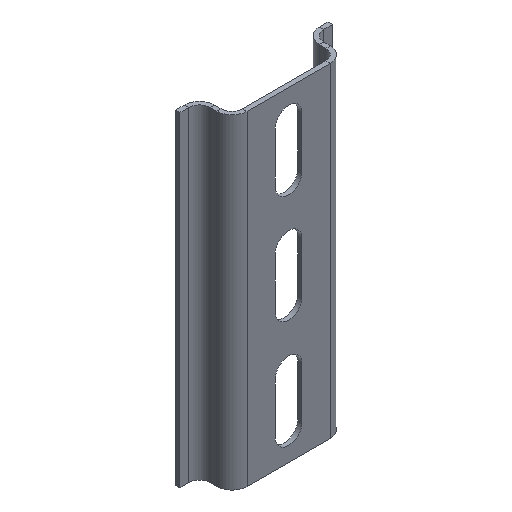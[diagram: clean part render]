
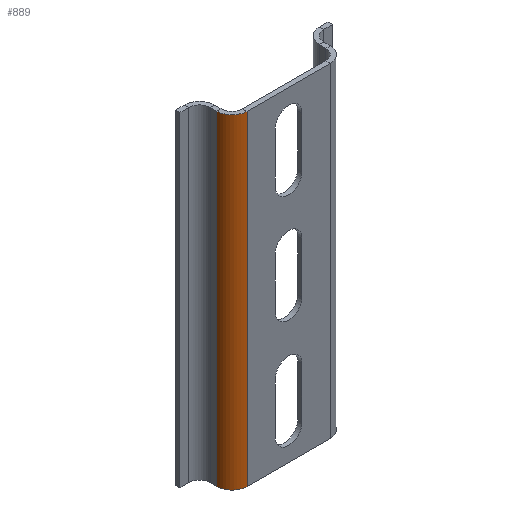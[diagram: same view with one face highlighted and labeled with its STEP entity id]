
A CAD part, isometric view. The second image highlights one B-rep face of the part: STEP entity #889.
In plain terms, the highlighted cylindrical face has radius 3.5 mm (diameter 7 mm), a partial arc.
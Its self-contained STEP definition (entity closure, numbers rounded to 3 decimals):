
#1 = ORIENTED_EDGE ( 'NONE', *, *, #903, .T. ) ;
#27 = CIRCLE ( 'NONE', #381, 3.5 ) ;
#50 = CARTESIAN_POINT ( 'NONE',  ( -9.6, -1., 0. ) ) ;
#68 = AXIS2_PLACEMENT_3D ( 'NONE', #1451, #773, #176 ) ;
#116 = LINE ( 'NONE', #662, #1263 ) ;
#152 = ORIENTED_EDGE ( 'NONE', *, *, #1134, .F. ) ;
#171 = EDGE_LOOP ( 'NONE', ( #152, #1127, #1393, #1 ) ) ;
#176 = DIRECTION ( 'NONE',  ( 1., 0., 0. ) ) ;
#252 = CARTESIAN_POINT ( 'NONE',  ( -13.1, 2.5, 75. ) ) ;
#316 = FACE_OUTER_BOUND ( 'NONE', #171, .T. ) ;
#323 = CARTESIAN_POINT ( 'NONE',  ( -9.6, -1., 75. ) ) ;
#337 = LINE ( 'NONE', #252, #1264 ) ;
#366 = DIRECTION ( 'NONE',  ( 0., 0., -1. ) ) ;
#381 = AXIS2_PLACEMENT_3D ( 'NONE', #614, #849, #483 ) ;
#464 = AXIS2_PLACEMENT_3D ( 'NONE', #1413, #366, #741 ) ;
#483 = DIRECTION ( 'NONE',  ( 1., 0., 0. ) ) ;
#496 = DIRECTION ( 'NONE',  ( 0., 0., -1. ) ) ;
#614 = CARTESIAN_POINT ( 'NONE',  ( -9.6, 2.5, 75. ) ) ;
#625 = VERTEX_POINT ( 'NONE', #1106 ) ;
#656 = CYLINDRICAL_SURFACE ( 'NONE', #464, 3.5 ) ;
#662 = CARTESIAN_POINT ( 'NONE',  ( -9.6, -1., 75. ) ) ;
#741 = DIRECTION ( 'NONE',  ( -1., 0., 0. ) ) ;
#773 = DIRECTION ( 'NONE',  ( 0., 0., -1. ) ) ;
#849 = DIRECTION ( 'NONE',  ( 0., 0., -1. ) ) ;
#860 = EDGE_CURVE ( 'NONE', #1293, #625, #27, .T. ) ;
#889 = ADVANCED_FACE ( 'NONE', ( #316 ), #656, .T. ) ;
#903 = EDGE_CURVE ( 'NONE', #625, #1416, #337, .T. ) ;
#1045 = CIRCLE ( 'NONE', #68, 3.5 ) ;
#1072 = EDGE_CURVE ( 'NONE', #1293, #1090, #116, .T. ) ;
#1090 = VERTEX_POINT ( 'NONE', #50 ) ;
#1097 = DIRECTION ( 'NONE',  ( 0., 0., -1. ) ) ;
#1106 = CARTESIAN_POINT ( 'NONE',  ( -13.1, 2.5, 75. ) ) ;
#1127 = ORIENTED_EDGE ( 'NONE', *, *, #1072, .F. ) ;
#1134 = EDGE_CURVE ( 'NONE', #1090, #1416, #1045, .T. ) ;
#1184 = CARTESIAN_POINT ( 'NONE',  ( -13.1, 2.5, 0. ) ) ;
#1263 = VECTOR ( 'NONE', #1097, 1000. ) ;
#1264 = VECTOR ( 'NONE', #496, 1000. ) ;
#1293 = VERTEX_POINT ( 'NONE', #323 ) ;
#1393 = ORIENTED_EDGE ( 'NONE', *, *, #860, .T. ) ;
#1413 = CARTESIAN_POINT ( 'NONE',  ( -9.6, 2.5, 75. ) ) ;
#1416 = VERTEX_POINT ( 'NONE', #1184 ) ;
#1451 = CARTESIAN_POINT ( 'NONE',  ( -9.6, 2.5, 0. ) ) ;
